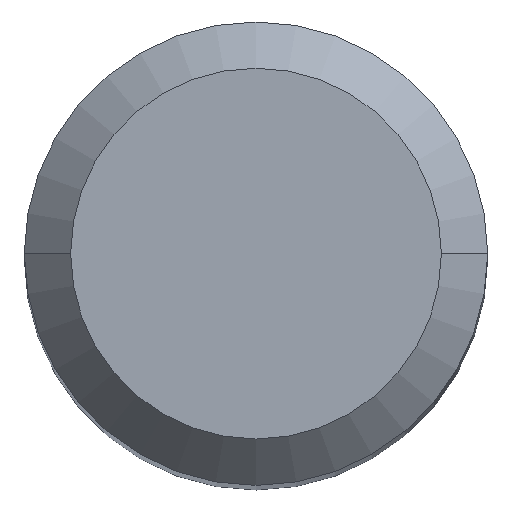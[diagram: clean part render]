
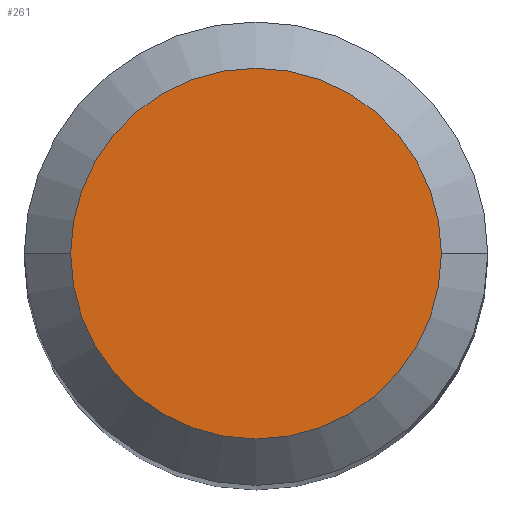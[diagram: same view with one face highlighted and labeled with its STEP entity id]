
A CAD part, top view. The second image highlights one B-rep face of the part: STEP entity #261.
In plain terms, the highlighted planar face has unit normal (0, 0, 1).
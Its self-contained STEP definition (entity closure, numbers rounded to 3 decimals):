
#7 = VERTEX_POINT ( 'NONE', #37 ) ;
#29 = DIRECTION ( 'NONE',  ( -1., 0., 0. ) ) ;
#37 = CARTESIAN_POINT ( 'NONE',  ( -2.4, 0., 0. ) ) ;
#60 = FACE_OUTER_BOUND ( 'NONE', #97, .T. ) ;
#93 = AXIS2_PLACEMENT_3D ( 'NONE', #483, #107, #145 ) ;
#97 = EDGE_LOOP ( 'NONE', ( #480, #290 ) ) ;
#98 = DIRECTION ( 'NONE',  ( 1., 0., 0. ) ) ;
#107 = DIRECTION ( 'NONE',  ( 0., 0., -1. ) ) ;
#108 = CIRCLE ( 'NONE', #490, 2.4 ) ;
#114 = CIRCLE ( 'NONE', #93, 2.4 ) ;
#137 = DIRECTION ( 'NONE',  ( 0., 0., 1. ) ) ;
#145 = DIRECTION ( 'NONE',  ( -1., 0., 0. ) ) ;
#208 = CARTESIAN_POINT ( 'NONE',  ( 2.4, 0., 0. ) ) ;
#216 = CARTESIAN_POINT ( 'NONE',  ( 0., 0., 0. ) ) ;
#255 = AXIS2_PLACEMENT_3D ( 'NONE', #390, #137, #98 ) ;
#261 = ADVANCED_FACE ( 'NONE', ( #60 ), #312, .T. ) ;
#290 = ORIENTED_EDGE ( 'NONE', *, *, #383, .F. ) ;
#307 = VERTEX_POINT ( 'NONE', #208 ) ;
#312 = PLANE ( 'NONE',  #255 ) ;
#334 = EDGE_CURVE ( 'NONE', #7, #307, #114, .T. ) ;
#373 = DIRECTION ( 'NONE',  ( 0., 0., -1. ) ) ;
#383 = EDGE_CURVE ( 'NONE', #307, #7, #108, .T. ) ;
#390 = CARTESIAN_POINT ( 'NONE',  ( 0., 2.4, 0. ) ) ;
#480 = ORIENTED_EDGE ( 'NONE', *, *, #334, .F. ) ;
#483 = CARTESIAN_POINT ( 'NONE',  ( 0., 0., 0. ) ) ;
#490 = AXIS2_PLACEMENT_3D ( 'NONE', #216, #373, #29 ) ;
